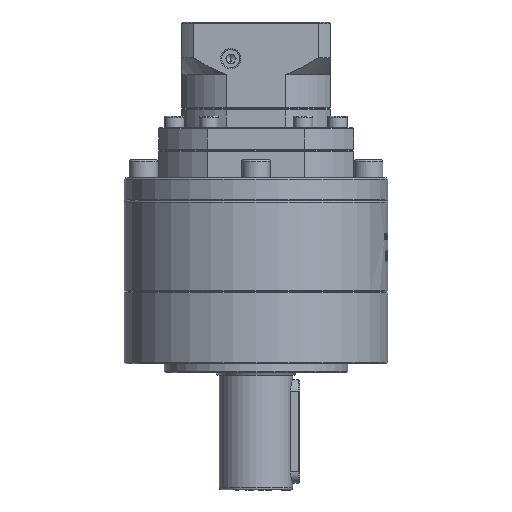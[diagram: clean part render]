
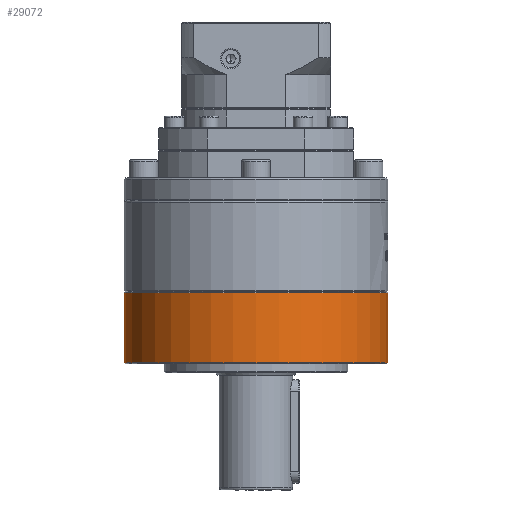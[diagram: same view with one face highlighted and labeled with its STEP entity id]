
A CAD part, left-side view. The second image highlights one B-rep face of the part: STEP entity #29072.
In plain terms, the highlighted cylindrical face has radius 57.5 mm (diameter 115 mm), a partial arc.
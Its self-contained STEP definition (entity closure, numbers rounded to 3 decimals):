
#2793 = AXIS2_PLACEMENT_3D ( 'NONE', #77678, #18459, #87513 ) ;
#8016 = CIRCLE ( 'NONE', #2793, 57.5 ) ;
#10572 = CARTESIAN_POINT ( 'NONE',  ( 76.386, 13.592, -106.269 ) ) ;
#11922 = DIRECTION ( 'NONE',  ( 0., -1., 0. ) ) ;
#14744 = AXIS2_PLACEMENT_3D ( 'NONE', #87929, #28859, #97830 ) ;
#17604 = VERTEX_POINT ( 'NONE', #109327 ) ;
#18082 = VERTEX_POINT ( 'NONE', #53247 ) ;
#18459 = DIRECTION ( 'NONE',  ( 0., 0., 1. ) ) ;
#19877 = VERTEX_POINT ( 'NONE', #40033 ) ;
#20663 = CARTESIAN_POINT ( 'NONE',  ( 76.386, 13.592, -118.769 ) ) ;
#23793 = EDGE_LOOP ( 'NONE', ( #48077, #33663, #47418, #29249 ) ) ;
#28859 = DIRECTION ( 'NONE',  ( 0., 0., 1. ) ) ;
#29072 = ADVANCED_FACE ( 'NONE', ( #66019 ), #30421, .T. ) ;
#29249 = ORIENTED_EDGE ( 'NONE', *, *, #127689, .F. ) ;
#30421 = CYLINDRICAL_SURFACE ( 'NONE', #37005, 57.5 ) ;
#30525 = LINE ( 'NONE', #10572, #53772 ) ;
#31454 = DIRECTION ( 'NONE',  ( 0., 0., 1. ) ) ;
#31842 = VECTOR ( 'NONE', #121521, 1000. ) ;
#33663 = ORIENTED_EDGE ( 'NONE', *, *, #94447, .T. ) ;
#37005 = AXIS2_PLACEMENT_3D ( 'NONE', #41423, #31454, #11922 ) ;
#40033 = CARTESIAN_POINT ( 'NONE',  ( 76.386, -101.408, -88.269 ) ) ;
#41423 = CARTESIAN_POINT ( 'NONE',  ( 76.386, -43.908, -106.269 ) ) ;
#47418 = ORIENTED_EDGE ( 'NONE', *, *, #111148, .T. ) ;
#48077 = ORIENTED_EDGE ( 'NONE', *, *, #54832, .F. ) ;
#53247 = CARTESIAN_POINT ( 'NONE',  ( 76.386, 13.592, -88.269 ) ) ;
#53772 = VECTOR ( 'NONE', #89597, 1000. ) ;
#54832 = EDGE_CURVE ( 'NONE', #89307, #18082, #30525, .T. ) ;
#66019 = FACE_OUTER_BOUND ( 'NONE', #23793, .T. ) ;
#76755 = CIRCLE ( 'NONE', #14744, 57.5 ) ;
#77678 = CARTESIAN_POINT ( 'NONE',  ( 76.386, -43.908, -118.769 ) ) ;
#84319 = LINE ( 'NONE', #111611, #31842 ) ;
#87513 = DIRECTION ( 'NONE',  ( 0., -1., 0. ) ) ;
#87929 = CARTESIAN_POINT ( 'NONE',  ( 76.386, -43.908, -88.269 ) ) ;
#89307 = VERTEX_POINT ( 'NONE', #20663 ) ;
#89597 = DIRECTION ( 'NONE',  ( 0., 0., 1. ) ) ;
#94447 = EDGE_CURVE ( 'NONE', #89307, #17604, #8016, .T. ) ;
#97830 = DIRECTION ( 'NONE',  ( 0., 1., 0. ) ) ;
#109327 = CARTESIAN_POINT ( 'NONE',  ( 76.386, -101.408, -118.769 ) ) ;
#111148 = EDGE_CURVE ( 'NONE', #17604, #19877, #84319, .T. ) ;
#111611 = CARTESIAN_POINT ( 'NONE',  ( 76.386, -101.408, -106.269 ) ) ;
#121521 = DIRECTION ( 'NONE',  ( 0., 0., 1. ) ) ;
#127689 = EDGE_CURVE ( 'NONE', #18082, #19877, #76755, .T. ) ;
